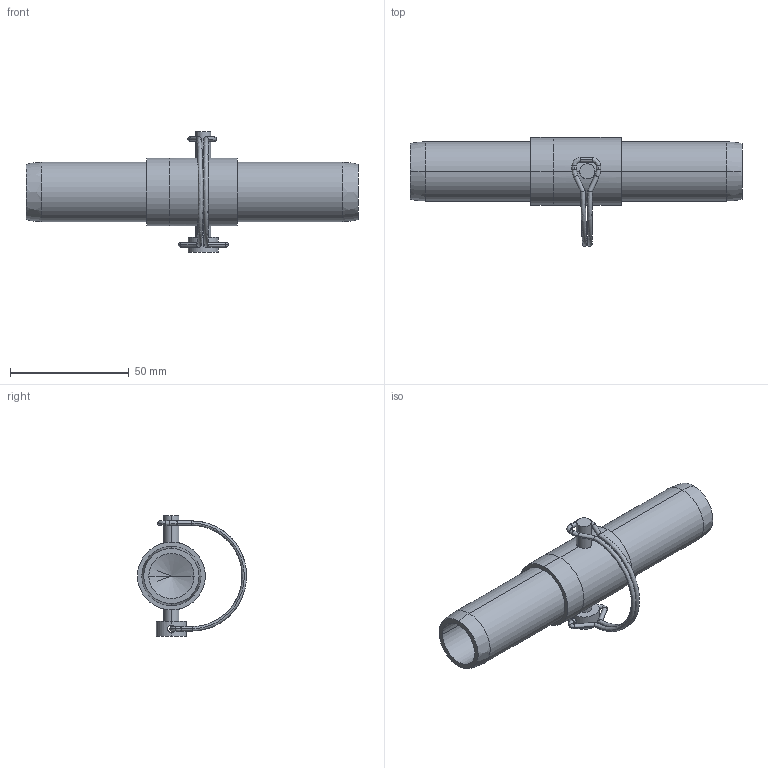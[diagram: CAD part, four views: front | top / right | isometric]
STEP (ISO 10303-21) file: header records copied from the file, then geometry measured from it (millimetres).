
FILE_DESCRIPTION (( 'STEP AP203' ), '1' );
FILE_NAME ('FDPCK-MC1-PINNED-KIT.step', '2019-09-11T18:42:54', ( 'ydmin' ), ( '' ), 'SwSTEP 2.0', 'SolidWorks 2017', '' );
FILE_SCHEMA (( 'CONFIG_CONTROL_DESIGN' ));
Length unit declared in the file: inch
Products named in the file (1): FDPCK-MC1-PINNED-KIT
Bounding box: 139.7 x 45.88 x 50.8 mm (x, y, z)
Volume: 45736.8 mm3; surface area: 25556.6 mm2
Topology: 4 solids, 4 shells, 88 faces, 208 edges, 123 vertices
Faces by surface type: cylinder 40, bspline 30, plane 10, cone 8
Entity records: 4241 total; most frequent: CARTESIAN_POINT 2246, ORIENTED_EDGE 412, DIRECTION 400, EDGE_CURVE 206, AXIS2_PLACEMENT_3D 173, VERTEX_POINT 123, CIRCLE 114, EDGE_LOOP 97
